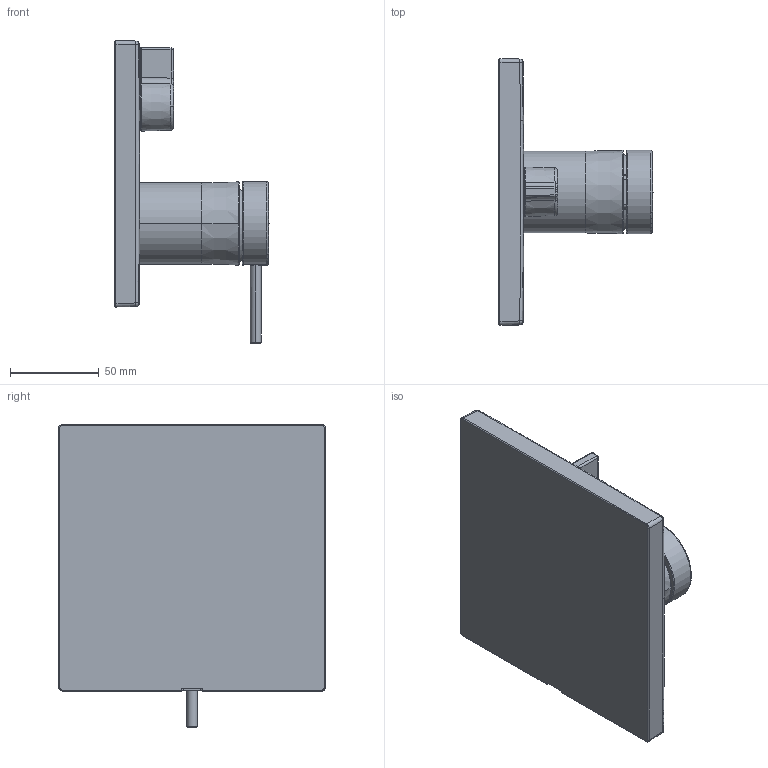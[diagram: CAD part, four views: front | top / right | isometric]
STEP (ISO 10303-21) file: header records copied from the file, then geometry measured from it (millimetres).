
FILE_DESCRIPTION((''),'2;1');
FILE_NAME('20204500','2017-08-29T',('SN986'),(''),'CREO PARAMETRIC BY PTC INC, 2016260','CREO PARAMETRIC BY PTC INC, 2016260','');
FILE_SCHEMA(('CONFIG_CONTROL_DESIGN'));
Length unit declared in the file: millimetre
Products named in the file (1): 20204500
Bounding box: 86.65 x 149.97 x 170.49 mm (x, y, z)
Volume: 440295.9 mm3; surface area: 71122.4 mm2
Topology: 2 solids, 2 shells, 299 faces, 718 edges, 421 vertices
Faces by surface type: bspline 104, cylinder 90, plane 46, torus 33, cone 15, sphere 7, revolution 4
Entity records: 16090 total; most frequent: CARTESIAN_POINT 10063, ORIENTED_EDGE 1418, DIRECTION 947, EDGE_CURVE 709, VERTEX_POINT 421, AXIS2_PLACEMENT_3D 388, B_SPLINE_CURVE_WITH_KNOTS 349, EDGE_LOOP 308
